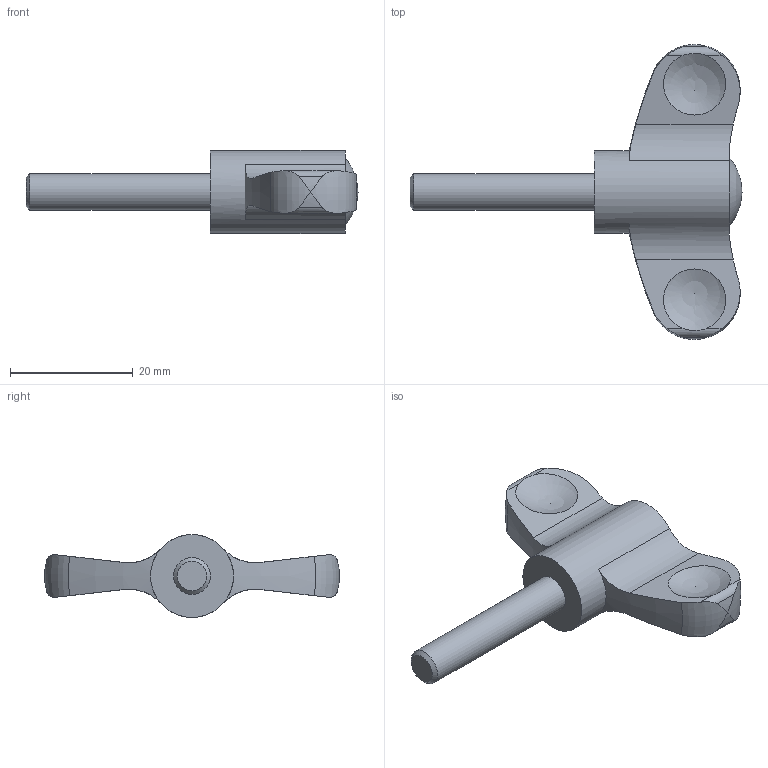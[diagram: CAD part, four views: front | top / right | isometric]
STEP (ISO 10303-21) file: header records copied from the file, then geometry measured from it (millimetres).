
FILE_DESCRIPTION( ( 'STEP AP203' ), '1' );
FILE_NAME( 'C:/Temp/Ganter_Step_05_03_2020/data/2_2/gn_633/Wing nut GN 633-48-M6-30-DGB.stp', '2020-03-05T12:20:40', ( 'License CC BY-ND 4.0' ), ( 'CADENAS' ), ' ', 'PARTsolutions', ' ' );
FILE_SCHEMA( ( 'CONFIG_CONTROL_DESIGN' ) );
Length unit declared in the file: millimetre
Products named in the file (1): _Wing nut GN 633-48-M6-30-DGB
Bounding box: 54 x 48 x 13.5 mm (x, y, z)
Volume: 6538.4 mm3; surface area: 3106.7 mm2
Topology: 1 solids, 1 shells, 33 faces, 102 edges, 68 vertices
Faces by surface type: cylinder 14, sphere 7, plane 7, bspline 2, torus 2, cone 1
Full cylindrical faces by diameter (mm): 6 x1, 13.5 x1
Entity records: 1450 total; most frequent: CARTESIAN_POINT 638, ORIENTED_EDGE 166, DIRECTION 138, EDGE_CURVE 83, VERTEX_POINT 63, AXIS2_PLACEMENT_3D 59, EDGE_LOOP 38, B_SPLINE_CURVE_WITH_KNOTS 36
